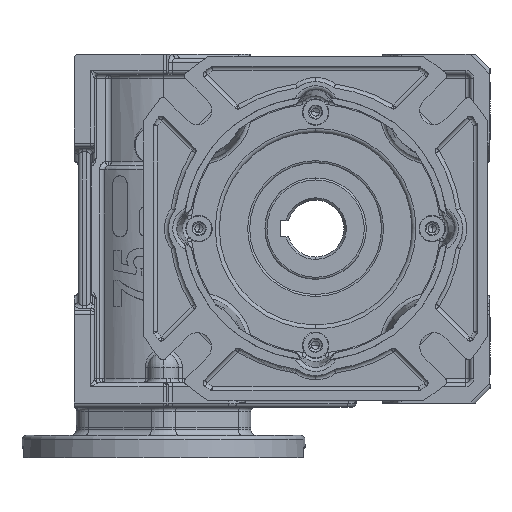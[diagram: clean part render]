
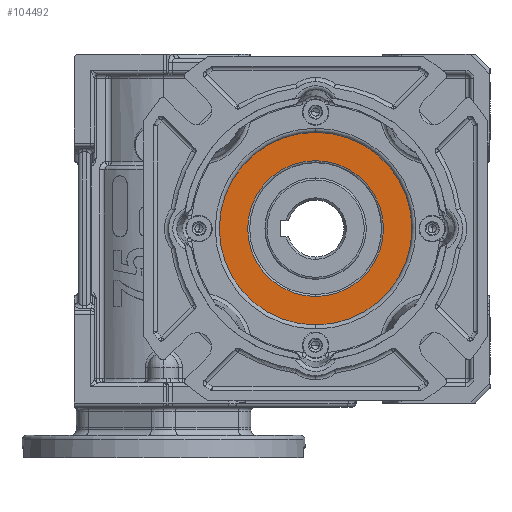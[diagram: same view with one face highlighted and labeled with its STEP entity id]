
A CAD part, left-side view. The second image highlights one B-rep face of the part: STEP entity #104492.
In plain terms, the highlighted planar face has unit normal (-1, 0, 0).
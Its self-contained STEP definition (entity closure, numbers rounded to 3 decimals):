
#1147 = CARTESIAN_POINT ( 'NONE',  ( -60., 0., -33.5 ) ) ;
#1419 = DIRECTION ( 'NONE',  ( 0., 0., 1. ) ) ;
#1420 = DIRECTION ( 'NONE',  ( -1., 0., 0. ) ) ;
#1422 = CARTESIAN_POINT ( 'NONE',  ( -60., 0., 0. ) ) ;
#1424 = AXIS2_PLACEMENT_3D ( 'NONE', #1422, #1420, #1419 ) ;
#1426 = CIRCLE ( 'NONE', #1424, 33.5 ) ;
#1680 = CARTESIAN_POINT ( 'NONE',  ( -60., 0., 33.5 ) ) ;
#1724 = CARTESIAN_POINT ( 'NONE',  ( -60., 0., 47.5 ) ) ;
#1725 = CARTESIAN_POINT ( 'NONE',  ( -60., 0., -47.5 ) ) ;
#1727 = DIRECTION ( 'NONE',  ( 0., 0., -1. ) ) ;
#1730 = DIRECTION ( 'NONE',  ( 1., 0., 0. ) ) ;
#1733 = AXIS2_PLACEMENT_3D ( 'NONE', #1743, #1730, #1727 ) ;
#1735 = CIRCLE ( 'NONE', #1733, 47.5 ) ;
#1743 = CARTESIAN_POINT ( 'NONE',  ( -60., 0., 0. ) ) ;
#16476 = FACE_BOUND ( 'NONE', #104501, .T. ) ;
#16478 = FACE_OUTER_BOUND ( 'NONE', #104495, .T. ) ;
#16582 = DIRECTION ( 'NONE',  ( 0., 0., 1. ) ) ;
#16584 = DIRECTION ( 'NONE',  ( -1., 0., 0. ) ) ;
#16585 = CARTESIAN_POINT ( 'NONE',  ( -60., 0., 0. ) ) ;
#16587 = AXIS2_PLACEMENT_3D ( 'NONE', #16585, #16584, #16582 ) ;
#16588 = CIRCLE ( 'NONE', #16587, 33.5 ) ;
#16598 = DIRECTION ( 'NONE',  ( 0., 0., -1. ) ) ;
#16601 = DIRECTION ( 'NONE',  ( 1., 0., 0. ) ) ;
#16604 = CARTESIAN_POINT ( 'NONE',  ( -60., 0., 0. ) ) ;
#16607 = AXIS2_PLACEMENT_3D ( 'NONE', #16604, #16601, #16598 ) ;
#16609 = CIRCLE ( 'NONE', #16607, 47.5 ) ;
#16619 = DIRECTION ( 'NONE',  ( 0., 0., -1. ) ) ;
#16622 = DIRECTION ( 'NONE',  ( -1., 0., 0. ) ) ;
#16624 = CARTESIAN_POINT ( 'NONE',  ( -60., 0., 0. ) ) ;
#16626 = AXIS2_PLACEMENT_3D ( 'NONE', #16624, #16622, #16619 ) ;
#16634 = PLANE ( 'NONE',  #16626 ) ;
#102055 = VERTEX_POINT ( 'NONE', #1147 ) ;
#102059 = EDGE_CURVE ( 'NONE', #102055, #102164, #1426, .T. ) ;
#102140 = EDGE_CURVE ( 'NONE', #102142, #102144, #1735, .T. ) ;
#102142 = VERTEX_POINT ( 'NONE', #1725 ) ;
#102144 = VERTEX_POINT ( 'NONE', #1724 ) ;
#102164 = VERTEX_POINT ( 'NONE', #1680 ) ;
#104282 = ORIENTED_EDGE ( 'NONE', *, *, #102059, .F. ) ;
#104492 = ADVANCED_FACE ( 'NONE', ( #16478, #16476 ), #16634, .T. ) ;
#104495 = EDGE_LOOP ( 'NONE', ( #104497, #104499 ) ) ;
#104497 = ORIENTED_EDGE ( 'NONE', *, *, #102140, .F. ) ;
#104499 = ORIENTED_EDGE ( 'NONE', *, *, #104500, .F. ) ;
#104500 = EDGE_CURVE ( 'NONE', #102144, #102142, #16609, .T. ) ;
#104501 = EDGE_LOOP ( 'NONE', ( #104502, #104282 ) ) ;
#104502 = ORIENTED_EDGE ( 'NONE', *, *, #104503, .F. ) ;
#104503 = EDGE_CURVE ( 'NONE', #102164, #102055, #16588, .T. ) ;
